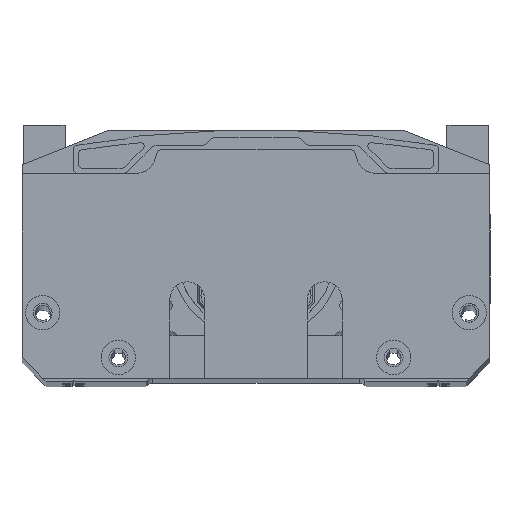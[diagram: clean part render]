
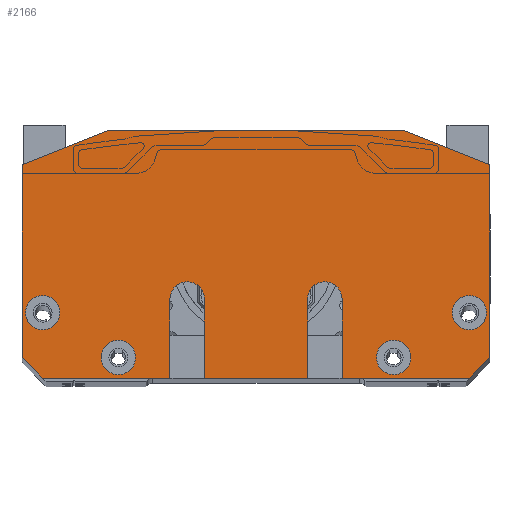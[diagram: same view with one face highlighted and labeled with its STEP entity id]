
A CAD part, top view. The second image highlights one B-rep face of the part: STEP entity #2166.
In plain terms, the highlighted planar face has unit normal (0, 0, 1).
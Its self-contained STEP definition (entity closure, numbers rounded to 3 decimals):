
#2166=ADVANCED_FACE('9',(#3223,#3224,#3225,#3226,#3227),#2811,.T.);
#2811=PLANE('',#18393);
#3223=FACE_BOUND('',#4227,.T.);
#3224=FACE_BOUND('',#4228,.T.);
#3225=FACE_BOUND('',#4229,.T.);
#3226=FACE_BOUND('',#4230,.T.);
#3227=FACE_BOUND('',#4231,.T.);
#4227=EDGE_LOOP('',(#8532,#8533,#8534,#8535,#8536,#8537,#8538,#8539,#8540,
#8541,#8542,#8543,#8544,#8545,#8546,#8547));
#4228=EDGE_LOOP('',(#8548));
#4229=EDGE_LOOP('',(#8549));
#4230=EDGE_LOOP('',(#8550));
#4231=EDGE_LOOP('',(#8551));
#5359=CIRCLE('',#18352,5.);
#5361=CIRCLE('',#18357,5.);
#5379=CIRCLE('',#18389,5.);
#5380=CIRCLE('',#18390,5.);
#5381=CIRCLE('',#18391,5.);
#5382=CIRCLE('',#18392,5.);
#8532=ORIENTED_EDGE('',*,*,#13918,.T.);
#8533=ORIENTED_EDGE('',*,*,#13920,.T.);
#8534=ORIENTED_EDGE('',*,*,#13914,.T.);
#8535=ORIENTED_EDGE('',*,*,#13020,.F.);
#8536=ORIENTED_EDGE('',*,*,#13926,.T.);
#8537=ORIENTED_EDGE('',*,*,#13928,.T.);
#8538=ORIENTED_EDGE('',*,*,#13922,.T.);
#8539=ORIENTED_EDGE('',*,*,#13017,.F.);
#8540=ORIENTED_EDGE('',*,*,#13034,.T.);
#8541=ORIENTED_EDGE('',*,*,#13060,.F.);
#8542=ORIENTED_EDGE('',*,*,#13937,.T.);
#8543=ORIENTED_EDGE('',*,*,#13959,.F.);
#8544=ORIENTED_EDGE('',*,*,#13940,.T.);
#8545=ORIENTED_EDGE('',*,*,#12973,.F.);
#8546=ORIENTED_EDGE('',*,*,#13005,.T.);
#8547=ORIENTED_EDGE('',*,*,#13023,.F.);
#8548=ORIENTED_EDGE('',*,*,#13960,.F.);
#8549=ORIENTED_EDGE('',*,*,#13961,.F.);
#8550=ORIENTED_EDGE('',*,*,#13962,.F.);
#8551=ORIENTED_EDGE('',*,*,#13963,.F.);
#11133=VERTEX_POINT('',#25964);
#11134=VERTEX_POINT('',#25966);
#11152=VERTEX_POINT('',#26024);
#11158=VERTEX_POINT('',#26045);
#11159=VERTEX_POINT('',#26047);
#11160=VERTEX_POINT('',#26050);
#11161=VERTEX_POINT('',#26052);
#11162=VERTEX_POINT('',#26055);
#11169=VERTEX_POINT('',#26076);
#11191=VERTEX_POINT('',#26126);
#11718=VERTEX_POINT('',#29671);
#11720=VERTEX_POINT('',#29677);
#11722=VERTEX_POINT('',#29686);
#11724=VERTEX_POINT('',#29692);
#11733=VERTEX_POINT('',#29717);
#11735=VERTEX_POINT('',#29723);
#11745=VERTEX_POINT('',#29763);
#11746=VERTEX_POINT('',#29765);
#11747=VERTEX_POINT('',#29767);
#11748=VERTEX_POINT('',#29769);
#12973=EDGE_CURVE('',#11133,#11134,#15098,.T.);
#13005=EDGE_CURVE('',#11133,#11152,#15120,.T.);
#13017=EDGE_CURVE('',#11158,#11159,#15131,.T.);
#13020=EDGE_CURVE('',#11160,#11161,#15134,.T.);
#13023=EDGE_CURVE('',#11162,#11152,#15137,.T.);
#13034=EDGE_CURVE('',#11158,#11169,#15147,.T.);
#13060=EDGE_CURVE('',#11191,#11169,#15171,.T.);
#13914=EDGE_CURVE('',#11718,#11161,#15586,.T.);
#13918=EDGE_CURVE('',#11162,#11720,#15590,.T.);
#13920=EDGE_CURVE('',#11720,#11718,#5359,.T.);
#13922=EDGE_CURVE('',#11722,#11159,#15592,.T.);
#13926=EDGE_CURVE('',#11160,#11724,#15596,.T.);
#13928=EDGE_CURVE('',#11724,#11722,#5361,.T.);
#13937=EDGE_CURVE('',#11191,#11733,#15601,.T.);
#13940=EDGE_CURVE('',#11735,#11134,#15604,.T.);
#13959=EDGE_CURVE('',#11735,#11733,#15610,.T.);
#13960=EDGE_CURVE('',#11745,#11745,#5379,.T.);
#13961=EDGE_CURVE('',#11746,#11746,#5380,.T.);
#13962=EDGE_CURVE('',#11747,#11747,#5381,.T.);
#13963=EDGE_CURVE('',#11748,#11748,#5382,.T.);
#15098=LINE('',#25965,#16370);
#15120=LINE('',#26025,#16392);
#15131=LINE('',#26046,#16403);
#15134=LINE('',#26051,#16406);
#15137=LINE('',#26056,#16409);
#15147=LINE('',#26077,#16419);
#15171=LINE('',#26127,#16443);
#15586=LINE('',#29670,#16858);
#15590=LINE('',#29678,#16862);
#15592=LINE('',#29685,#16864);
#15596=LINE('',#29693,#16868);
#15601=LINE('',#29716,#16873);
#15604=LINE('',#29722,#16876);
#15610=LINE('',#29761,#16882);
#16370=VECTOR('',#20172,1.);
#16392=VECTOR('',#20232,1.);
#16403=VECTOR('',#20251,1.);
#16406=VECTOR('',#20254,1.);
#16409=VECTOR('',#20257,1.);
#16419=VECTOR('',#20275,1.);
#16443=VECTOR('',#20307,1.);
#16858=VECTOR('',#22054,1.);
#16862=VECTOR('',#22060,1.);
#16864=VECTOR('',#22070,1.);
#16868=VECTOR('',#22076,1.);
#16873=VECTOR('',#22101,1.);
#16876=VECTOR('',#22106,1.);
#16882=VECTOR('',#22158,1.);
#18352=AXIS2_PLACEMENT_3D('',#29681,#22065,#22066);
#18357=AXIS2_PLACEMENT_3D('',#29696,#22081,#22082);
#18389=AXIS2_PLACEMENT_3D('',#29762,#22159,#22160);
#18390=AXIS2_PLACEMENT_3D('',#29764,#22161,#22162);
#18391=AXIS2_PLACEMENT_3D('',#29766,#22163,#22164);
#18392=AXIS2_PLACEMENT_3D('',#29768,#22165,#22166);
#18393=AXIS2_PLACEMENT_3D('',#29770,#22167,#22168);
#20172=DIRECTION('',(0.,1.,0.));
#20232=DIRECTION('',(0.707,-0.707,0.));
#20251=DIRECTION('',(-1.,0.,0.));
#20254=DIRECTION('',(-1.,0.,0.));
#20257=DIRECTION('',(-1.,0.,0.));
#20275=DIRECTION('',(0.707,0.707,0.));
#20307=DIRECTION('',(0.,-1.,0.));
#22054=DIRECTION('',(0.,-1.,0.));
#22060=DIRECTION('',(0.,1.,0.));
#22065=DIRECTION('',(0.,0.,-1.));
#22066=DIRECTION('',(1.,0.,0.));
#22070=DIRECTION('',(0.,-1.,0.));
#22076=DIRECTION('',(0.,1.,0.));
#22081=DIRECTION('',(0.,0.,-1.));
#22082=DIRECTION('',(-1.,0.,0.));
#22101=DIRECTION('',(-0.928,0.371,0.));
#22106=DIRECTION('',(-0.928,-0.371,0.));
#22158=DIRECTION('',(1.,0.,0.));
#22159=DIRECTION('',(0.,0.,1.));
#22160=DIRECTION('',(1.,0.,0.));
#22161=DIRECTION('',(0.,0.,1.));
#22162=DIRECTION('',(1.,0.,0.));
#22163=DIRECTION('',(0.,0.,1.));
#22164=DIRECTION('',(1.,0.,0.));
#22165=DIRECTION('',(0.,0.,1.));
#22166=DIRECTION('',(1.,0.,0.));
#22167=DIRECTION('',(0.,0.,1.));
#22168=DIRECTION('',(-1.,0.,0.));
#25964=CARTESIAN_POINT('',(-68.,6.,382.));
#25965=CARTESIAN_POINT('',(-68.,0.,382.));
#25966=CARTESIAN_POINT('',(-68.,62.,382.));
#26024=CARTESIAN_POINT('',(-62.,0.,382.));
#26025=CARTESIAN_POINT('',(-49.,-13.,382.));
#26045=CARTESIAN_POINT('',(62.,0.,382.));
#26046=CARTESIAN_POINT('',(68.,0.,382.));
#26047=CARTESIAN_POINT('',(25.,0.,382.));
#26050=CARTESIAN_POINT('',(15.,0.,382.));
#26051=CARTESIAN_POINT('',(68.,0.,382.));
#26052=CARTESIAN_POINT('',(-15.,0.,382.));
#26055=CARTESIAN_POINT('',(-25.,0.,382.));
#26056=CARTESIAN_POINT('',(68.,0.,382.));
#26076=CARTESIAN_POINT('',(68.,6.,382.));
#26077=CARTESIAN_POINT('',(49.,-13.,382.));
#26126=CARTESIAN_POINT('',(68.,62.,382.));
#26127=CARTESIAN_POINT('',(68.,0.,382.));
#29670=CARTESIAN_POINT('',(-15.,23.,382.));
#29671=CARTESIAN_POINT('',(-15.,23.,382.));
#29677=CARTESIAN_POINT('',(-25.,23.,382.));
#29678=CARTESIAN_POINT('',(-25.,23.,382.));
#29681=CARTESIAN_POINT('',(-20.,23.,382.));
#29685=CARTESIAN_POINT('',(25.,23.,382.));
#29686=CARTESIAN_POINT('',(25.,23.,382.));
#29692=CARTESIAN_POINT('',(15.,23.,382.));
#29693=CARTESIAN_POINT('',(15.,23.,382.));
#29696=CARTESIAN_POINT('',(20.,23.,382.));
#29716=CARTESIAN_POINT('',(18.345,81.862,382.));
#29717=CARTESIAN_POINT('',(43.,72.,382.));
#29722=CARTESIAN_POINT('',(-18.345,81.862,382.));
#29723=CARTESIAN_POINT('',(-43.,72.,382.));
#29761=CARTESIAN_POINT('',(68.,72.,382.));
#29762=CARTESIAN_POINT('',(-62.,19.,382.));
#29763=CARTESIAN_POINT('',(-57.,19.,382.));
#29764=CARTESIAN_POINT('',(62.,19.,382.));
#29765=CARTESIAN_POINT('',(67.,19.,382.));
#29766=CARTESIAN_POINT('',(-40.,6.,382.));
#29767=CARTESIAN_POINT('',(-35.,6.,382.));
#29768=CARTESIAN_POINT('',(40.,6.,382.));
#29769=CARTESIAN_POINT('',(45.,6.,382.));
#29770=CARTESIAN_POINT('',(0.,36.,382.));
